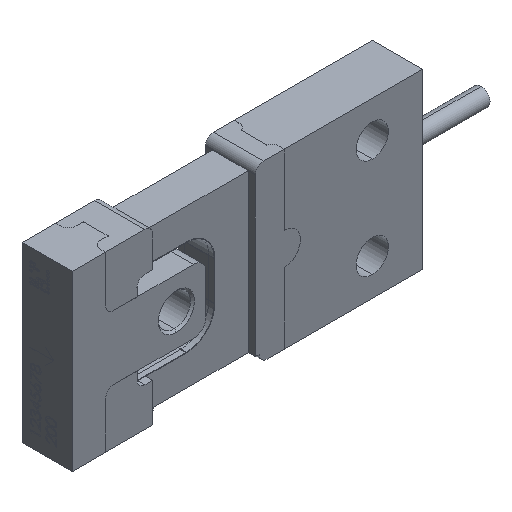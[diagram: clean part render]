
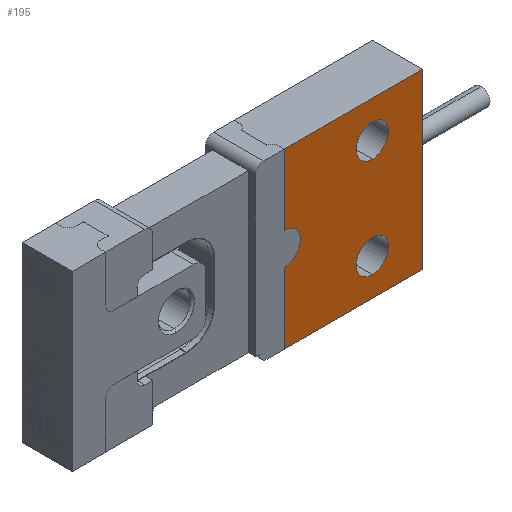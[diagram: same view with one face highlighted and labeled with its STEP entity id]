
A CAD part, isometric view. The second image highlights one B-rep face of the part: STEP entity #195.
In plain terms, the highlighted planar face has unit normal (0, -1, 0).
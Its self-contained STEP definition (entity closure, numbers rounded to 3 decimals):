
#118 = DIRECTION ( 'NONE',  ( 0., 0., 1. ) ) ;
#195 = ADVANCED_FACE ( 'NONE', ( #14298, #3769, #13076 ), #15573, .F. ) ;
#327 = EDGE_CURVE ( 'NONE', #14673, #13920, #20616, .T. ) ;
#607 = CARTESIAN_POINT ( 'NONE',  ( 37.489, -6.273, 105.7 ) ) ;
#623 = AXIS2_PLACEMENT_3D ( 'NONE', #17610, #19535, #15997 ) ;
#677 = VERTEX_POINT ( 'NONE', #18509 ) ;
#972 = CIRCLE ( 'NONE', #8131, 4.1 ) ;
#1523 = EDGE_CURVE ( 'NONE', #3632, #4055, #5495, .T. ) ;
#1569 = CARTESIAN_POINT ( 'NONE',  ( 15.139, -6.273, 110.9 ) ) ;
#1704 = AXIS2_PLACEMENT_3D ( 'NONE', #20745, #18953, #22764 ) ;
#1854 = EDGE_CURVE ( 'NONE', #13920, #14673, #972, .T. ) ;
#2064 = ORIENTED_EDGE ( 'NONE', *, *, #1523, .F. ) ;
#2108 = ORIENTED_EDGE ( 'NONE', *, *, #11770, .F. ) ;
#2832 = DIRECTION ( 'NONE',  ( 1., 0., 0. ) ) ;
#3023 = ORIENTED_EDGE ( 'NONE', *, *, #7303, .F. ) ;
#3576 = ORIENTED_EDGE ( 'NONE', *, *, #1854, .F. ) ;
#3632 = VERTEX_POINT ( 'NONE', #20135 ) ;
#3746 = CARTESIAN_POINT ( 'NONE',  ( 37.489, -6.273, 76.2 ) ) ;
#3769 = FACE_BOUND ( 'NONE', #18743, .T. ) ;
#3819 = DIRECTION ( 'NONE',  ( 0., -1., 0. ) ) ;
#4055 = VERTEX_POINT ( 'NONE', #22294 ) ;
#4396 = DIRECTION ( 'NONE',  ( 0., -1., 0. ) ) ;
#4639 = CARTESIAN_POINT ( 'NONE',  ( 37.489, -6.273, 76.2 ) ) ;
#4696 = EDGE_LOOP ( 'NONE', ( #2064, #3023, #2108, #11223, #8523, #9204 ) ) ;
#4870 = VECTOR ( 'NONE', #2832, 1000. ) ;
#5154 = EDGE_CURVE ( 'NONE', #4055, #15926, #12006, .T. ) ;
#5495 = CIRCLE ( 'NONE', #14477, 4.1 ) ;
#5747 = AXIS2_PLACEMENT_3D ( 'NONE', #21512, #11972, #21589 ) ;
#6576 = CARTESIAN_POINT ( 'NONE',  ( 37.489, -6.273, 80.3 ) ) ;
#6585 = DIRECTION ( 'NONE',  ( 0., 0., 1. ) ) ;
#6919 = VECTOR ( 'NONE', #6934, 1000. ) ;
#6934 = DIRECTION ( 'NONE',  ( 0., 0., 1. ) ) ;
#7012 = CARTESIAN_POINT ( 'NONE',  ( 15.139, -6.273, 88.9 ) ) ;
#7303 = EDGE_CURVE ( 'NONE', #20741, #3632, #11532, .T. ) ;
#7682 = DIRECTION ( 'NONE',  ( 0., 0., 1. ) ) ;
#7782 = DIRECTION ( 'NONE',  ( 0., -1., 0. ) ) ;
#8131 = AXIS2_PLACEMENT_3D ( 'NONE', #4639, #4396, #6585 ) ;
#8236 = EDGE_LOOP ( 'NONE', ( #20317, #20240 ) ) ;
#8523 = ORIENTED_EDGE ( 'NONE', *, *, #9748, .F. ) ;
#8854 = CIRCLE ( 'NONE', #1704, 4.1 ) ;
#9204 = ORIENTED_EDGE ( 'NONE', *, *, #5154, .F. ) ;
#9748 = EDGE_CURVE ( 'NONE', #15926, #677, #22664, .T. ) ;
#9797 = DIRECTION ( 'NONE',  ( -1., 0., 0. ) ) ;
#10392 = CARTESIAN_POINT ( 'NONE',  ( -38.711, -6.273, 110.9 ) ) ;
#11223 = ORIENTED_EDGE ( 'NONE', *, *, #17960, .F. ) ;
#11475 = VECTOR ( 'NONE', #11670, 1000. ) ;
#11532 = LINE ( 'NONE', #14061, #21802 ) ;
#11670 = DIRECTION ( 'NONE',  ( 0., 0., -1. ) ) ;
#11700 = AXIS2_PLACEMENT_3D ( 'NONE', #3746, #7782, #118 ) ;
#11770 = EDGE_CURVE ( 'NONE', #20015, #20741, #24562, .T. ) ;
#11972 = DIRECTION ( 'NONE',  ( 0., -1., 0. ) ) ;
#12006 = LINE ( 'NONE', #7012, #6919 ) ;
#12071 = LINE ( 'NONE', #23491, #11475 ) ;
#13076 = FACE_BOUND ( 'NONE', #8236, .T. ) ;
#13591 = CARTESIAN_POINT ( 'NONE',  ( 37.489, -6.273, 97.5 ) ) ;
#13920 = VERTEX_POINT ( 'NONE', #6576 ) ;
#14061 = CARTESIAN_POINT ( 'NONE',  ( 15.139, -6.273, 88.9 ) ) ;
#14298 = FACE_OUTER_BOUND ( 'NONE', #4696, .T. ) ;
#14477 = AXIS2_PLACEMENT_3D ( 'NONE', #15489, #3819, #7682 ) ;
#14673 = VERTEX_POINT ( 'NONE', #23891 ) ;
#14941 = EDGE_CURVE ( 'NONE', #15580, #23801, #21807, .T. ) ;
#15489 = CARTESIAN_POINT ( 'NONE',  ( 15.139, -6.273, 88.9 ) ) ;
#15573 = PLANE ( 'NONE',  #623 ) ;
#15580 = VERTEX_POINT ( 'NONE', #13591 ) ;
#15704 = CARTESIAN_POINT ( 'NONE',  ( 50.189, -6.273, 66.9 ) ) ;
#15748 = CARTESIAN_POINT ( 'NONE',  ( -38.711, -6.273, 66.9 ) ) ;
#15926 = VERTEX_POINT ( 'NONE', #1569 ) ;
#15930 = CARTESIAN_POINT ( 'NONE',  ( 15.139, -6.273, 66.9 ) ) ;
#15997 = DIRECTION ( 'NONE',  ( 0., 0., 1. ) ) ;
#17275 = EDGE_CURVE ( 'NONE', #23801, #15580, #8854, .T. ) ;
#17610 = CARTESIAN_POINT ( 'NONE',  ( -38.711, -6.273, 88.9 ) ) ;
#17960 = EDGE_CURVE ( 'NONE', #677, #20015, #12071, .T. ) ;
#18509 = CARTESIAN_POINT ( 'NONE',  ( 50.189, -6.273, 110.9 ) ) ;
#18743 = EDGE_LOOP ( 'NONE', ( #3576, #19101 ) ) ;
#18953 = DIRECTION ( 'NONE',  ( 0., -1., 0. ) ) ;
#19101 = ORIENTED_EDGE ( 'NONE', *, *, #327, .F. ) ;
#19535 = DIRECTION ( 'NONE',  ( 0., 1., 0. ) ) ;
#19874 = DIRECTION ( 'NONE',  ( 0., 0., 1. ) ) ;
#20015 = VERTEX_POINT ( 'NONE', #15704 ) ;
#20135 = CARTESIAN_POINT ( 'NONE',  ( 15.139, -6.273, 84.8 ) ) ;
#20240 = ORIENTED_EDGE ( 'NONE', *, *, #14941, .F. ) ;
#20317 = ORIENTED_EDGE ( 'NONE', *, *, #17275, .F. ) ;
#20616 = CIRCLE ( 'NONE', #11700, 4.1 ) ;
#20741 = VERTEX_POINT ( 'NONE', #15930 ) ;
#20745 = CARTESIAN_POINT ( 'NONE',  ( 37.489, -6.273, 101.6 ) ) ;
#21512 = CARTESIAN_POINT ( 'NONE',  ( 37.489, -6.273, 101.6 ) ) ;
#21589 = DIRECTION ( 'NONE',  ( 0., 0., 1. ) ) ;
#21802 = VECTOR ( 'NONE', #19874, 1000. ) ;
#21807 = CIRCLE ( 'NONE', #5747, 4.1 ) ;
#22294 = CARTESIAN_POINT ( 'NONE',  ( 15.139, -6.273, 93. ) ) ;
#22664 = LINE ( 'NONE', #10392, #4870 ) ;
#22764 = DIRECTION ( 'NONE',  ( 0., 0., 1. ) ) ;
#23491 = CARTESIAN_POINT ( 'NONE',  ( 50.189, -6.273, 88.9 ) ) ;
#23801 = VERTEX_POINT ( 'NONE', #607 ) ;
#23891 = CARTESIAN_POINT ( 'NONE',  ( 37.489, -6.273, 72.1 ) ) ;
#24562 = LINE ( 'NONE', #15748, #24894 ) ;
#24894 = VECTOR ( 'NONE', #9797, 1000. ) ;
